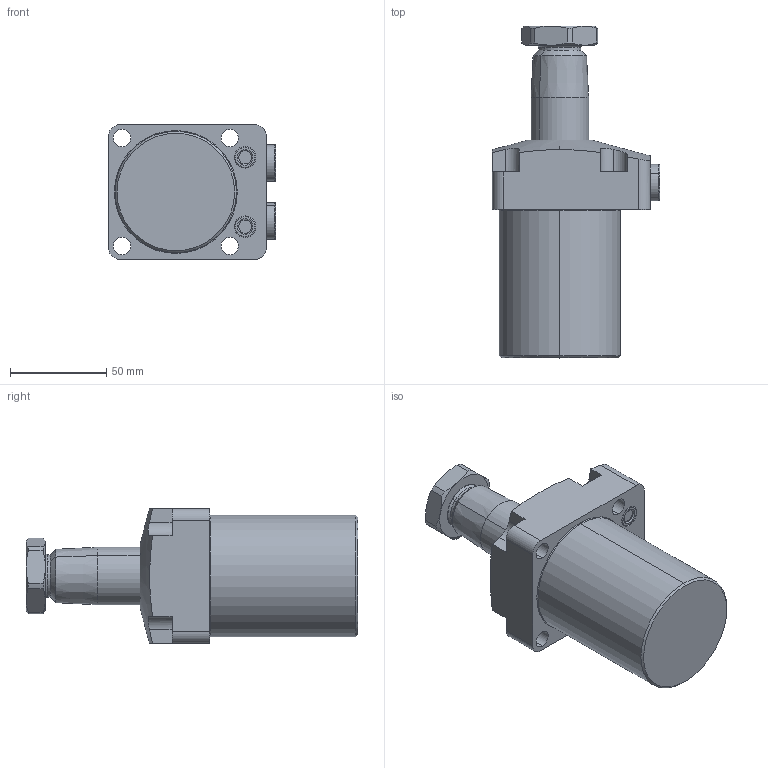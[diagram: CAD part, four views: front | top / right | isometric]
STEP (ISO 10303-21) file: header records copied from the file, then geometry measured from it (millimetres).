
FILE_DESCRIPTION(/* description */ (''),/* implementation_level */ '2;1');
FILE_NAME(/* name */ 'TRC10-RN45.stp',/* time_stamp */ '2025-01-04T09:51:38+08:00',/* author */ (''),/* organization */ (''),/* preprocessor_version */ 'ST-DEVELOPER v16.7',/* originating_system */ 'SIEMENS PLM Software NX 12.0',/* authorisation */ '');
FILE_SCHEMA (('AUTOMOTIVE_DESIGN { 1 0 10303 214 3 1 1 1 }'));
Length unit declared in the file: millimetre
Products named in the file (5): TRC10-RN45-04; TRC10-RN45-03; TRC10-RN45-02; TRC10-RN45-01; TRC10-RN45_stp
Assembly tree (5 placements, depth 2):
  TRC10-RN45_stp
    TRC10-RN45-01
    TRC10-RN45-02
    TRC10-RN45-03
    TRC10-RN45-04  x2
Bounding box: 86.8 x 172.3 x 70 mm (x, y, z)
Volume: 441937.7 mm3; surface area: 54168.2 mm2
Topology: 5 solids, 7 shells, 203 faces, 465 edges, 288 vertices
Faces by surface type: cylinder 73, plane 67, cone 40, torus 22, sphere 1
Entity records: 5410 total; most frequent: CARTESIAN_POINT 1086, DIRECTION 938, ORIENTED_EDGE 836, EDGE_CURVE 418, AXIS2_PLACEMENT_3D 386, VERTEX_POINT 260, EDGE_LOOP 206, CIRCLE 199
